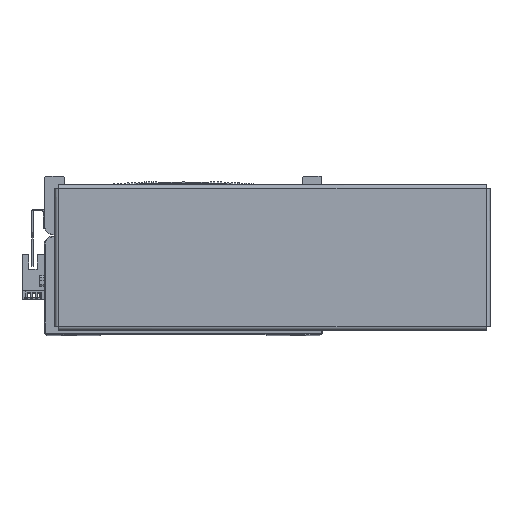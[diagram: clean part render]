
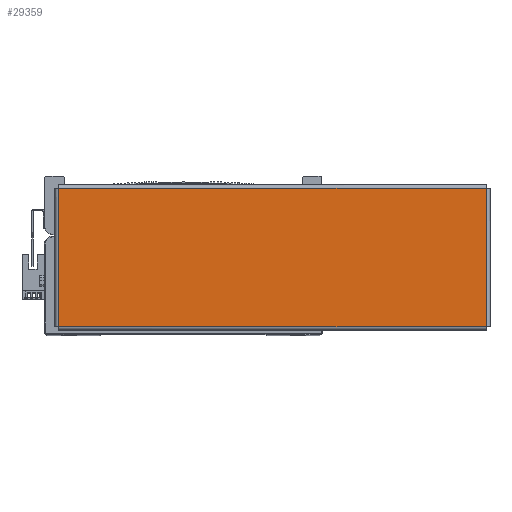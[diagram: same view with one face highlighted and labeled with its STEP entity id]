
A CAD part, top view. The second image highlights one B-rep face of the part: STEP entity #29359.
In plain terms, the highlighted planar face has unit normal (0, 0, 1) as drawn and (0, -1, 0) by its records, which use the part's own axes.
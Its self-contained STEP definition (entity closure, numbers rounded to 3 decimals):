
#821 = CARTESIAN_POINT ( 'NONE',  ( 130.863, -1.5, 42.263 ) ) ;
#827 = CARTESIAN_POINT ( 'NONE',  ( 130.863, -1.5, -42.263 ) ) ;
#854 = CARTESIAN_POINT ( 'NONE',  ( -130.863, -1.5, 42.263 ) ) ;
#875 = CARTESIAN_POINT ( 'NONE',  ( -130.863, -1.5, -42.263 ) ) ;
#1980 = EDGE_LOOP ( 'NONE', ( #12477, #12528, #12502, #12469 ) ) ;
#11208 = FACE_OUTER_BOUND ( 'NONE', #1980, .T. ) ;
#12469 = ORIENTED_EDGE ( 'NONE', *, *, #48671, .T. ) ;
#12477 = ORIENTED_EDGE ( 'NONE', *, *, #48667, .T. ) ;
#12502 = ORIENTED_EDGE ( 'NONE', *, *, #48666, .T. ) ;
#12528 = ORIENTED_EDGE ( 'NONE', *, *, #41935, .T. ) ;
#23690 = AXIS2_PLACEMENT_3D ( 'NONE', #26904, #26859, #26890 ) ;
#26856 = PLANE ( 'NONE',  #23690 ) ;
#26859 = DIRECTION ( 'NONE',  ( 0., 1., 0. ) ) ;
#26890 = DIRECTION ( 'NONE',  ( 0., 0., 1. ) ) ;
#26904 = CARTESIAN_POINT ( 'NONE',  ( 0., -1.5, 0. ) ) ;
#29359 = ADVANCED_FACE ( 'NONE', ( #11208 ), #26856, .F. ) ;
#29937 = VERTEX_POINT ( 'NONE', #827 ) ;
#29962 = VERTEX_POINT ( 'NONE', #821 ) ;
#30006 = VERTEX_POINT ( 'NONE', #854 ) ;
#30024 = VERTEX_POINT ( 'NONE', #875 ) ;
#33682 = VECTOR ( 'NONE', #37361, 1000. ) ;
#33716 = LINE ( 'NONE', #37386, #33682 ) ;
#37361 = DIRECTION ( 'NONE',  ( -1., 0., 0. ) ) ;
#37386 = CARTESIAN_POINT ( 'NONE',  ( 130.893, -1.5, 42.263 ) ) ;
#41935 = EDGE_CURVE ( 'NONE', #29962, #30006, #33716, .T. ) ;
#48666 = EDGE_CURVE ( 'NONE', #30006, #30024, #61373, .T. ) ;
#48667 = EDGE_CURVE ( 'NONE', #29937, #29962, #61340, .T. ) ;
#48671 = EDGE_CURVE ( 'NONE', #30024, #29937, #61399, .T. ) ;
#56528 = DIRECTION ( 'NONE',  ( 0., 0., 1. ) ) ;
#56530 = CARTESIAN_POINT ( 'NONE',  ( 130.863, -1.5, -42.293 ) ) ;
#56545 = CARTESIAN_POINT ( 'NONE',  ( -130.893, -1.5, -42.263 ) ) ;
#56550 = CARTESIAN_POINT ( 'NONE',  ( -130.863, -1.5, 42.293 ) ) ;
#56559 = DIRECTION ( 'NONE',  ( 0., 0., -1. ) ) ;
#56565 = DIRECTION ( 'NONE',  ( 1., 0., 0. ) ) ;
#61340 = LINE ( 'NONE', #56530, #61345 ) ;
#61345 = VECTOR ( 'NONE', #56528, 1000. ) ;
#61346 = VECTOR ( 'NONE', #56559, 1000. ) ;
#61364 = VECTOR ( 'NONE', #56565, 1000. ) ;
#61373 = LINE ( 'NONE', #56550, #61346 ) ;
#61399 = LINE ( 'NONE', #56545, #61364 ) ;
